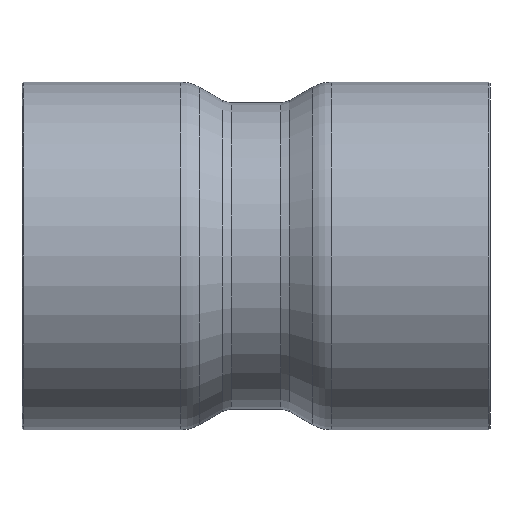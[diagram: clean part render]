
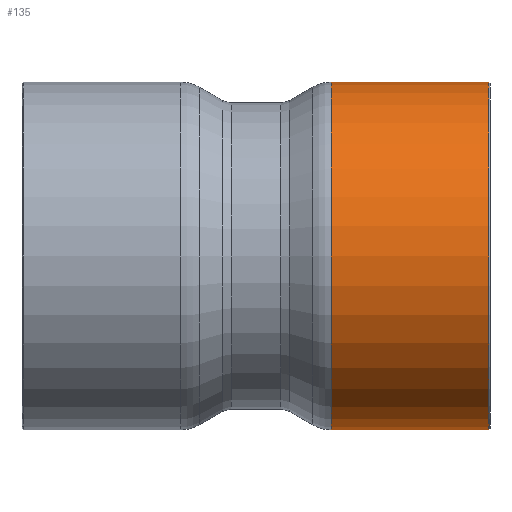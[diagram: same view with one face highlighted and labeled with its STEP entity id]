
A CAD part, front view. The second image highlights one B-rep face of the part: STEP entity #135.
In plain terms, the highlighted cylindrical face has radius 30.65 mm (diameter 61.3 mm), a full revolution.
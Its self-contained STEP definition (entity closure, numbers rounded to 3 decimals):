
#73=CARTESIAN_POINT('',(41.05,30.65,0.));
#74=VERTEX_POINT('',#73);
#75=CARTESIAN_POINT('',(41.05,0.0,0.0));
#76=DIRECTION('',(1.0,0.0,0.0));
#77=DIRECTION('',(0.0,-1.0,0.0));
#78=AXIS2_PLACEMENT_3D('',#75,#76,#77);
#79=CIRCLE('',#78,30.65);
#80=EDGE_CURVE('',#74,#74,#79,.T.);
#116=CARTESIAN_POINT('',(27.269,0.0,0.0));
#117=DIRECTION('',(1.0,0.0,0.0));
#118=DIRECTION('',(0.0,1.0,0.0));
#119=AXIS2_PLACEMENT_3D('',#116,#117,#118);
#120=CYLINDRICAL_SURFACE('',#119,30.65);
#121=CARTESIAN_POINT('',(13.289,30.65,0.0));
#122=VERTEX_POINT('',#121);
#123=CARTESIAN_POINT('',(13.289,0.0,0.0));
#124=DIRECTION('',(1.0,0.0,0.0));
#125=DIRECTION('',(0.0,1.0,0.0));
#126=AXIS2_PLACEMENT_3D('',#123,#124,#125);
#127=CIRCLE('',#126,30.65);
#128=EDGE_CURVE('',#122,#122,#127,.T.);
#129=ORIENTED_EDGE('',*,*,#128,.T.);
#130=EDGE_LOOP('',(#129));
#131=FACE_OUTER_BOUND('',#130,.T.);
#132=ORIENTED_EDGE('',*,*,#80,.F.);
#133=EDGE_LOOP('',(#132));
#134=FACE_BOUND('',#133,.T.);
#135=ADVANCED_FACE('',(#131,#134),#120,.T.);
